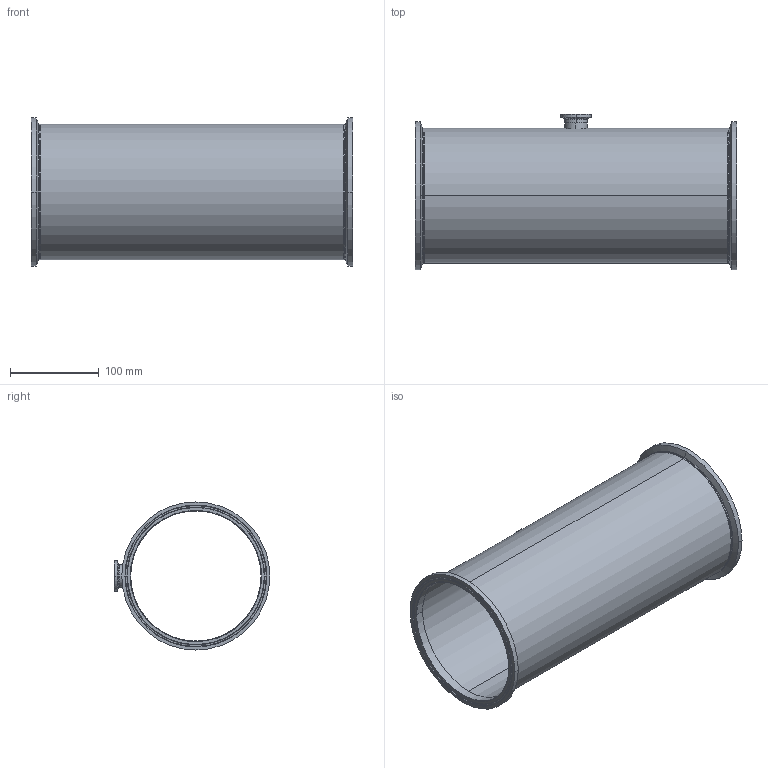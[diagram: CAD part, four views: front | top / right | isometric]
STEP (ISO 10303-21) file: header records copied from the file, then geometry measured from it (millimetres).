
FILE_DESCRIPTION (( 'STEP AP214' ), '1' );
FILE_NAME ('TEG7RS6L6.0x1.0-..Type A.STEP', '2016-05-24T11:19:02', ( 'eran' ), ( '' ), 'SwSTEP 2.0', 'SolidWorks 2016', '' );
FILE_SCHEMA (( 'AUTOMOTIVE_DESIGN' ));
Length unit declared in the file: millimetre
Products named in the file (1): TEG7RS6L6.0x1.0-..Type A
Bounding box: 362 x 175.54 x 166.88 mm (x, y, z)
Volume: 522337.7 mm3; surface area: 364403.6 mm2
Topology: 4 solids, 4 shells, 84 faces, 198 edges, 126 vertices
Faces by surface type: cylinder 28, bspline 28, cone 16, plane 12
Entity records: 4975 total; most frequent: CARTESIAN_POINT 2989, DIRECTION 426, ORIENTED_EDGE 396, EDGE_CURVE 198, AXIS2_PLACEMENT_3D 191, CIRCLE 134, VERTEX_POINT 126, EDGE_LOOP 98
